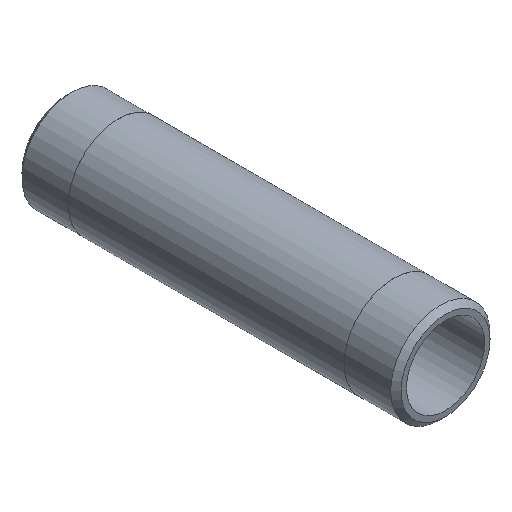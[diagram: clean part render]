
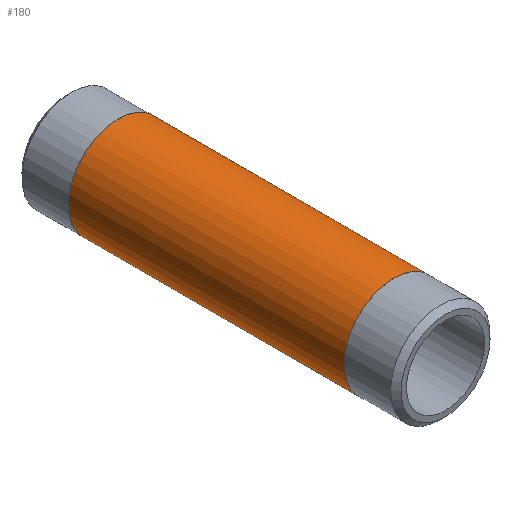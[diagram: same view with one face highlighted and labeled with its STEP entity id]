
A CAD part, isometric view. The second image highlights one B-rep face of the part: STEP entity #180.
In plain terms, the highlighted cylindrical face has radius 13.335 mm (diameter 26.67 mm), a full revolution.
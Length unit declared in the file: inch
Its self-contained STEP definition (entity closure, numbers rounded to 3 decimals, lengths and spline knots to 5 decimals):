
#25=CYLINDRICAL_SURFACE('',#220,0.525);
#34=FACE_OUTER_BOUND('',#47,.T.);
#47=EDGE_LOOP('',(#155,#156,#157,#158,#159,#160));
#55=LINE('',#338,#61);
#61=VECTOR('',#283,0.525);
#77=CIRCLE('',#218,0.525);
#78=CIRCLE('',#219,0.525);
#79=CIRCLE('',#221,0.525);
#80=CIRCLE('',#222,0.525);
#95=VERTEX_POINT('',#329);
#96=VERTEX_POINT('',#330);
#97=VERTEX_POINT('',#334);
#98=VERTEX_POINT('',#335);
#117=EDGE_CURVE('',#95,#96,#77,.T.);
#118=EDGE_CURVE('',#96,#95,#78,.T.);
#119=EDGE_CURVE('',#97,#98,#79,.T.);
#120=EDGE_CURVE('',#98,#97,#80,.T.);
#121=EDGE_CURVE('',#98,#96,#55,.T.);
#155=ORIENTED_EDGE('',*,*,#119,.F.);
#156=ORIENTED_EDGE('',*,*,#120,.F.);
#157=ORIENTED_EDGE('',*,*,#121,.T.);
#158=ORIENTED_EDGE('',*,*,#118,.T.);
#159=ORIENTED_EDGE('',*,*,#117,.T.);
#160=ORIENTED_EDGE('',*,*,#121,.F.);
#180=ADVANCED_FACE('',(#34),#25,.T.);
#218=AXIS2_PLACEMENT_3D('',#331,#273,#274);
#219=AXIS2_PLACEMENT_3D('',#332,#275,#276);
#220=AXIS2_PLACEMENT_3D('',#333,#277,#278);
#221=AXIS2_PLACEMENT_3D('',#336,#279,#280);
#222=AXIS2_PLACEMENT_3D('',#337,#281,#282);
#273=DIRECTION('center_axis',(0.,-1.,0.));
#274=DIRECTION('ref_axis',(1.,0.,0.));
#275=DIRECTION('center_axis',(0.,-1.,0.));
#276=DIRECTION('ref_axis',(1.,0.,0.));
#277=DIRECTION('center_axis',(0.,-1.,0.));
#278=DIRECTION('ref_axis',(0.,0.,-1.));
#279=DIRECTION('center_axis',(0.,-1.,0.));
#280=DIRECTION('ref_axis',(1.,0.,0.));
#281=DIRECTION('center_axis',(0.,-1.,0.));
#282=DIRECTION('ref_axis',(1.,0.,0.));
#283=DIRECTION('',(0.,1.,0.));
#329=CARTESIAN_POINT('',(0.,3.455,-0.525));
#330=CARTESIAN_POINT('',(0.,3.455,0.525));
#331=CARTESIAN_POINT('Origin',(0.,3.455,0.));
#332=CARTESIAN_POINT('Origin',(0.,3.455,0.));
#333=CARTESIAN_POINT('Origin',(0.,2.,0.));
#334=CARTESIAN_POINT('',(0.,0.545,-0.525));
#335=CARTESIAN_POINT('',(0.,0.545,0.525));
#336=CARTESIAN_POINT('Origin',(0.,0.545,0.));
#337=CARTESIAN_POINT('Origin',(0.,0.545,0.));
#338=CARTESIAN_POINT('',(0.,2.,0.525));
